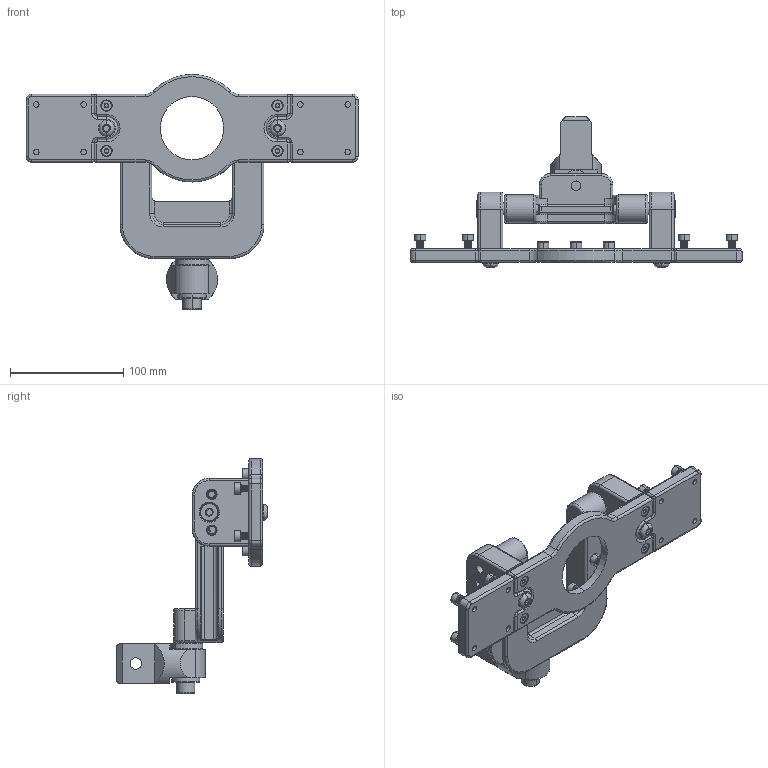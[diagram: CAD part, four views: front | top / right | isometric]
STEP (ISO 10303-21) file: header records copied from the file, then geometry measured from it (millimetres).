
FILE_DESCRIPTION((''),'2;1');
FILE_NAME('6158125740','2016-06-02T',('greextsd'),(''),'CREO PARAMETRIC BY PTC INC, 2016050','CREO PARAMETRIC BY PTC INC, 2016050','');
FILE_SCHEMA(('CONFIG_CONTROL_DESIGN'));
Products named in the file (1): 6158125740
Bounding box: 293 x 133.05 x 207.5 mm (x, y, z)
Volume: 629926.2 mm3; surface area: 137574.5 mm2
Topology: 1 solids, 1 shells, 2998 faces, 7874 edges, 4914 vertices
Faces by surface type: plane 1656, cone 642, cylinder 528, torus 140, bspline 16, sphere 16
Entity records: 97355 total; most frequent: CARTESIAN_POINT 25061, ORIENTED_EDGE 15648, DIRECTION 14429, EDGE_CURVE 7824, AXIS2_PLACEMENT_3D 5032, VERTEX_POINT 4914, VECTOR 4365, LINE 4365
